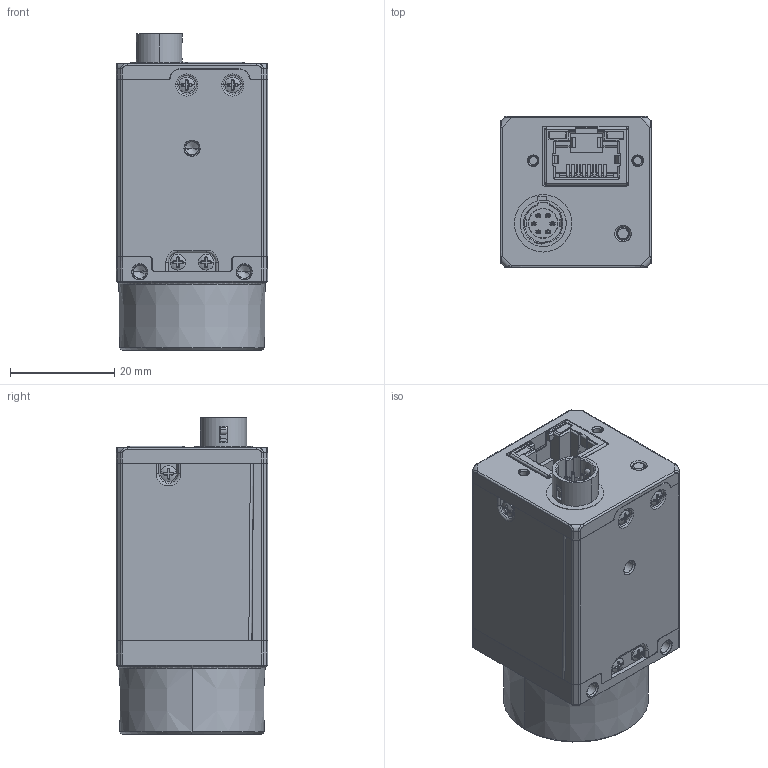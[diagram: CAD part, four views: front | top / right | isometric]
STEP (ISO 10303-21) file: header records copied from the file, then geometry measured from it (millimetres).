
FILE_DESCRIPTION((''),'2;1');
FILE_NAME('00-CU020-19GMGC-V2','2024-12-25T15:34:16',('zhangqianwen8'),(''),'CREO PARAMETRIC BY PTC INC, 2020044','CREO PARAMETRIC BY PTC INC, 2020044','');
FILE_SCHEMA(('CONFIG_CONTROL_DESIGN'));
Products named in the file (1): 00-CU020-19GMGC-V2
Bounding box: 29 x 29 x 60.66 mm (x, y, z)
Volume: 2789.9 mm3; surface area: 27817.7 mm2
Topology: 20 solids, 66 shells, 3729 faces, 10342 edges, 6642 vertices
Faces by surface type: plane 1735, cylinder 882, bspline 562, cone 304, torus 207, sphere 26, extrusion 13
Entity records: 183479 total; most frequent: CARTESIAN_POINT 93625, ORIENTED_EDGE 20185, DIRECTION 16429, EDGE_CURVE 10302, VERTEX_POINT 6642, AXIS2_PLACEMENT_3D 5526, VECTOR 5377, LINE 5364
